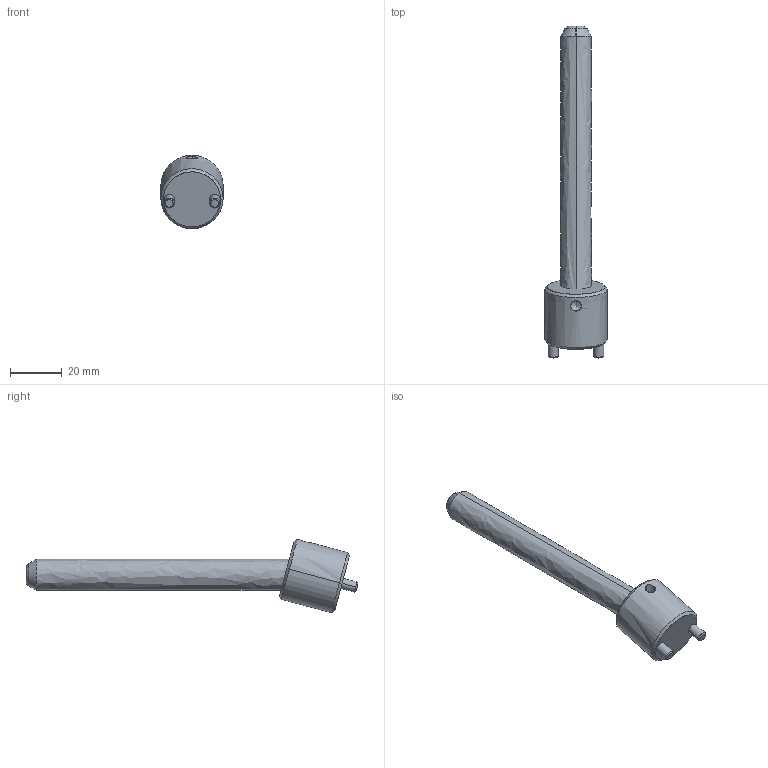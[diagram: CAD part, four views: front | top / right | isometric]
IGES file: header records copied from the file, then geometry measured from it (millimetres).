
Start section: START RECORD GO HERE.
Global section: file name: CI1512100.igs; native system: DASSAULT SYSTEMES CATIA V5 R20 - www.3ds.com; preprocessor: CATIA Version 5 Release 20 ; author: r.borello; organization: CFTORINO; date: 20190620.155311; units: millimetre
Bounding box: 24 x 128.08 x 28.36 mm (x, y, z)
Surface area: 7964.8 mm2 (no closed solid volume)
Topology: 0 solids, 0 shells, 39 faces, 162 edges, 160 vertices
Faces by surface type: revolution 32, plane 7
